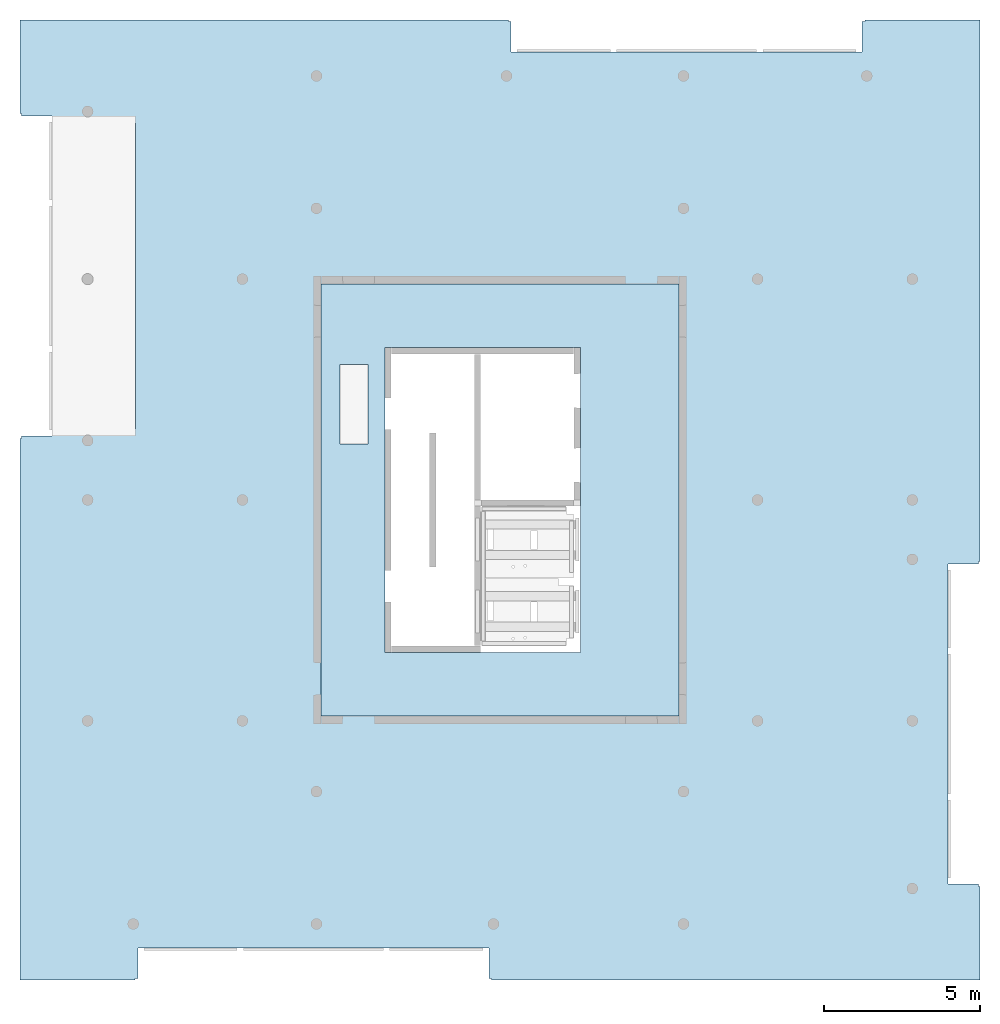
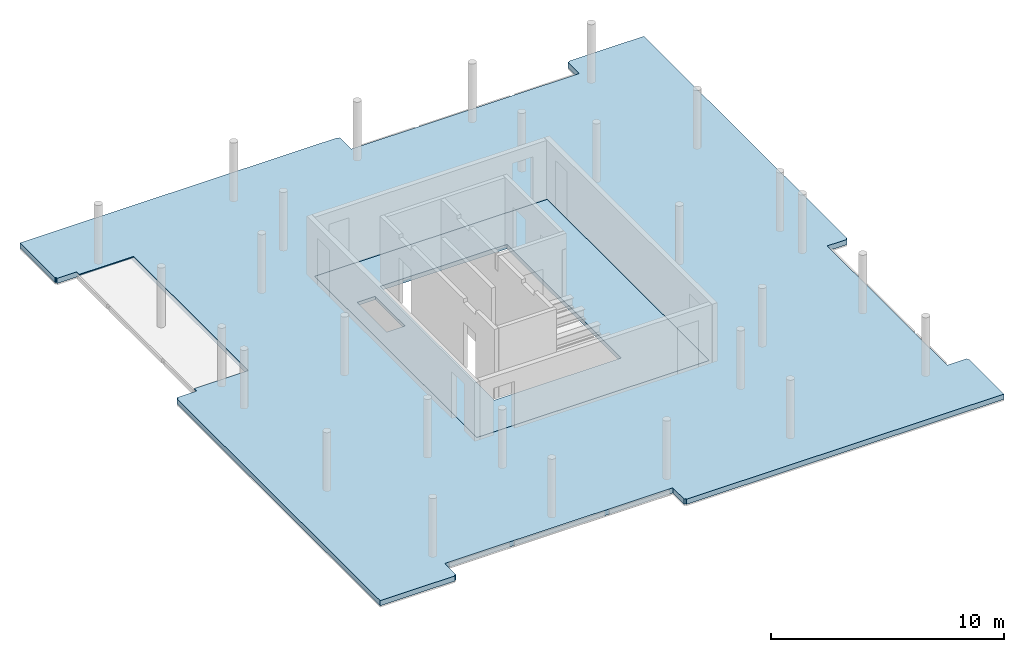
# One storey, part 4 of 4: 2 slabs.
"""IFC2X3 building model written with IfcOpenShell, lengths in millimetres."""

from ifc_helpers import new_model, entity, si_unit, converted_unit, derived_unit, direction, frame, origin, place, context, subcontext, project, spatial, faceted_brep, material, element, save


model = new_model("IFC2X3")

# Units and contexts
model_context = context("Model", 3, precision=0.01, world=origin(), true_north=direction((6.12303176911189e-17, 1.0)))
body_context = subcontext(model_context, "Body", "Model", "MODEL_VIEW")
ifc_project = project(units=[si_unit("LENGTHUNIT", "METRE", prefix="MILLI"), si_unit("AREAUNIT", "SQUARE_METRE"), si_unit("VOLUMEUNIT", "CUBIC_METRE"), converted_unit("PLANEANGLEUNIT", "DEGREE", entity("IfcRatioMeasure", 0.0174532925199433), si_unit("PLANEANGLEUNIT", "RADIAN"), dimensions=[0, 0, 0, 0, 0, 0, 0]), si_unit("MASSUNIT", "GRAM", prefix="KILO"), derived_unit("MASSDENSITYUNIT", [(si_unit("MASSUNIT", "GRAM", prefix="KILO"), 1), (si_unit("LENGTHUNIT", "METRE"), -3)]), si_unit("TIMEUNIT", "SECOND"), si_unit("FREQUENCYUNIT", "HERTZ"), si_unit("THERMODYNAMICTEMPERATUREUNIT", "DEGREE_CELSIUS"), derived_unit("THERMALTRANSMITTANCEUNIT", [(si_unit("MASSUNIT", "GRAM", prefix="KILO"), 1), (si_unit("THERMODYNAMICTEMPERATUREUNIT", "KELVIN"), -1), (si_unit("TIMEUNIT", "SECOND"), -3)]), derived_unit("VOLUMETRICFLOWRATEUNIT", [(si_unit("LENGTHUNIT", "METRE"), 3), (si_unit("TIMEUNIT", "SECOND"), -1)]), si_unit("ELECTRICCURRENTUNIT", "AMPERE"), si_unit("ELECTRICVOLTAGEUNIT", "VOLT"), si_unit("POWERUNIT", "WATT"), si_unit("FORCEUNIT", "NEWTON", prefix="KILO"), si_unit("ILLUMINANCEUNIT", "LUX"), si_unit("LUMINOUSFLUXUNIT", "LUMEN"), si_unit("LUMINOUSINTENSITYUNIT", "CANDELA"), derived_unit("USERDEFINED", [(si_unit("MASSUNIT", "GRAM", prefix="KILO"), -1), (si_unit("LENGTHUNIT", "METRE"), -2), (si_unit("TIMEUNIT", "SECOND"), 3), (si_unit("LUMINOUSFLUXUNIT", "LUMEN"), 1)]), derived_unit("LINEARVELOCITYUNIT", [(si_unit("LENGTHUNIT", "METRE"), 1), (si_unit("TIMEUNIT", "SECOND"), -1)]), si_unit("PRESSUREUNIT", "PASCAL"), derived_unit("USERDEFINED", [(si_unit("LENGTHUNIT", "METRE"), -2), (si_unit("MASSUNIT", "GRAM", prefix="KILO"), 1), (si_unit("TIMEUNIT", "SECOND"), -2)])], contexts=[model_context])

# Site, building, storey
site_placement = place(None, origin())
site = spatial("IfcSite", under=ifc_project, at=site_placement, Name="Default", CompositionType="ELEMENT")
building_placement = place(site_placement, origin())
building = spatial("IfcBuilding", under=site, at=building_placement, Name="niet gebruiken", CompositionType="ELEMENT")
storey_placement = place(building_placement, frame((0.0, 0.0, 175180.0)))
storey = spatial("IfcBuildingStorey", under=building, at=storey_placement, Name="56 zesenvijftigste verdieping", CompositionType="ELEMENT", Elevation=175180.0)

# Slabs
slab_1_placement = place(storey_placement, origin())
element("IfcSlab", 1, at=slab_1_placement, inside=storey, Name="Floor:NLRS_23.21_FL_vloer=230_gen", ObjectType="Floor:NLRS_23.21_FL_vloer=230_gen", PredefinedType="FLOOR", context=body_context, shape_type="Brep", body=[
    faceted_brep([(144330.0, 22400.0, -320.0), (138050.0, 22400.0, -320.0), (138050.0, 12600.0, -320.0), (144330.0, 12600.0, -320.0), (138040.0, 22410.0, -320.0), (144340.0, 22410.0, -320.0), (144340.0, 12590.0, -320.0), (138040.0, 12590.0, -320.0), (138050.0, 22400.0, -90.0), (144330.0, 22400.0, -90.0), (144330.0, 12600.0, -90.0), (138050.0, 12600.0, -90.0), (147500.0, 10550.0, -90.0), (147500.0, 24450.0, -90.0), (136000.0, 24450.0, -90.0), (136000.0, 10550.0, -90.0), (136600.0, 21855.0, -90.0), (137500.0, 21855.0, -90.0), (137500.0, 19305.0, -90.0), (136600.0, 19305.0, -90.0), (147500.0, 10550.0, -260.0), (147500.0, 24450.0, -260.0), (136000.0, 10550.0, -260.0), (136000.0, 24450.0, -260.0), (144340.0, 12590.0, -260.0), (144340.0, 22410.0, -260.0), (138040.0, 22410.0, -260.0), (138040.0, 12590.0, -260.0), (137500.0, 21855.0, -260.0), (136600.0, 21855.0, -260.0), (136600.0, 19305.0, -260.0), (137500.0, 19305.0, -260.0)], [[[0, 1, 2, 3], [4, 5, 6, 7]], [[8, 9, 10, 11], [12, 13, 14, 15], [16, 17, 18, 19]], [[13, 12, 20, 21]], [[12, 15, 22, 20]], [[15, 14, 23, 22]], [[14, 13, 21, 23]], [[1, 0, 9, 8]], [[2, 1, 8, 11]], [[3, 2, 11, 10]], [[0, 3, 10, 9]], [[24, 25, 26, 27], [21, 20, 22, 23], [28, 29, 30, 31]], [[26, 25, 5, 4]], [[27, 26, 4, 7]], [[24, 27, 7, 6]], [[25, 24, 6, 5]], [[17, 16, 29, 28]], [[16, 19, 30, 29]], [[19, 18, 31, 30]], [[18, 17, 28, 31]]], outer=[[False, True], [False, True, False], [True], [True], [True], [True], [True], [True], [True], [True], [False, True, False], [True], [True], [True], [True], [True], [True], [True], [True]]),
])
ifc_material = material(Name="NLRS_f2_beton ihwg")
slab_2_placement = place(storey_placement, origin())
element("IfcSlab", 2, at=slab_2_placement, inside=storey, material=ifc_material, Name="Floor:NLRS_23.21_FL_vloer d=350_gen", ObjectType="Floor:NLRS_23.21_FL_vloer d=350_gen", PredefinedType="FLOOR", context=body_context, shape_type="Brep", body=[
    faceted_brep([(147500.0, 24450.0, -440.0), (136000.0, 24450.0, -440.0), (136000.0, 10550.0, -440.0), (147500.0, 10550.0, -440.0), (135760.0, 24690.0, -440.0), (147740.0, 24690.0, -440.0), (147740.0, 10310.0, -440.0), (135760.0, 10310.0, -440.0), (130030.0, 29620.0, -90.0), (130030.0, 19780.0, -90.0), (127345.0, 19780.0, -90.0), (127345.0, 19560.0, -90.0), (126370.0, 19560.0, -90.0), (126370.0, 19474.0, -90.0), (126320.0, 19474.0, -90.0), (126320.0, 2070.0, -90.0), (130024.0, 2070.0, -90.0), (130024.0, 2120.0, -90.0), (130110.0, 2120.0, -90.0), (130110.0, 3095.0, -90.0), (141390.0, 3095.0, -90.0), (141390.0, 2120.0, -90.0), (141476.0, 2120.0, -90.0), (141476.0, 2070.0, -90.0), (157180.0, 2070.0, -90.0), (157180.0, 5074.0, -90.0), (157130.0, 5074.0, -90.0), (157130.0, 5160.0, -90.0), (156155.0, 5160.0, -90.0), (156155.0, 15440.0, -90.0), (157130.0, 15440.0, -90.0), (157130.0, 15526.0, -90.0), (157180.0, 15526.0, -90.0), (157180.0, 32930.0, -90.0), (153476.0, 32930.0, -90.0), (153476.0, 32880.0, -90.0), (153390.0, 32880.0, -90.0), (153390.0, 31905.0, -90.0), (142110.0, 31905.0, -90.0), (142110.0, 32880.0, -90.0), (142024.0, 32880.0, -90.0), (142024.0, 32930.0, -90.0), (126320.0, 32930.0, -90.0), (126320.0, 29926.0, -90.0), (126370.0, 29926.0, -90.0), (126370.0, 29840.0, -90.0), (127345.0, 29840.0, -90.0), (127345.0, 29620.0, -90.0), (136000.0, 24450.0, -90.0), (147500.0, 24450.0, -90.0), (147500.0, 10550.0, -90.0), (136000.0, 10550.0, -90.0), (130030.0, 29620.0, -140.0), (130030.0, 29840.0, -140.0), (130030.0, 29840.0, -360.0), (130030.0, 19560.0, -360.0), (130030.0, 19560.0, -140.0), (130030.0, 19780.0, -140.0), (127345.0, 29620.0, -140.0), (126320.0, 32930.0, -360.0), (126320.0, 29926.0, -360.0), (142024.0, 32930.0, -360.0), (142110.0, 31905.0, -360.0), (142110.0, 32880.0, -360.0), (153390.0, 31905.0, -360.0), (153390.0, 32880.0, -360.0), (157180.0, 32930.0, -360.0), (153476.0, 32930.0, -360.0), (157180.0, 15526.0, -360.0), (156155.0, 15440.0, -360.0), (157130.0, 15440.0, -360.0), (156155.0, 5160.0, -360.0), (157130.0, 5160.0, -360.0), (157180.0, 2070.0, -360.0), (157180.0, 5074.0, -360.0), (141476.0, 2070.0, -360.0), (141390.0, 3095.0, -360.0), (141390.0, 2120.0, -360.0), (130110.0, 3095.0, -360.0), (130110.0, 2120.0, -360.0), (126320.0, 2070.0, -360.0), (130024.0, 2070.0, -360.0), (126320.0, 19474.0, -360.0), (127345.0, 19780.0, -140.0), (147500.0, 24450.0, -320.0), (136000.0, 24450.0, -320.0), (136000.0, 10550.0, -320.0), (147500.0, 10550.0, -320.0), (127345.0, 29840.0, -140.0), (127345.0, 29840.0, -360.0), (126370.0, 29840.0, -360.0), (126370.0, 29926.0, -360.0), (142024.0, 32880.0, -360.0), (153476.0, 32880.0, -360.0), (157130.0, 15526.0, -360.0), (157130.0, 5074.0, -360.0), (141476.0, 2120.0, -360.0), (130024.0, 2120.0, -360.0), (126370.0, 19474.0, -360.0), (126370.0, 19560.0, -360.0), (127345.0, 19560.0, -360.0), (147740.0, 24690.0, -360.0), (135760.0, 24690.0, -360.0), (135760.0, 10310.0, -360.0), (147740.0, 10310.0, -360.0), (147510.0, 10540.0, -320.0), (147510.0, 24460.0, -320.0), (135990.0, 24460.0, -320.0), (135990.0, 10540.0, -320.0), (135990.0, 24460.0, -260.0), (147510.0, 24460.0, -260.0), (147510.0, 10540.0, -260.0), (135990.0, 10540.0, -260.0), (147500.0, 24450.0, -260.0), (136000.0, 24450.0, -260.0), (136000.0, 10550.0, -260.0), (147500.0, 10550.0, -260.0), (127345.0, 19560.0, -140.0)], [[[0, 1, 2, 3], [4, 5, 6, 7]], [[8, 9, 10, 11, 12, 13, 14, 15, 16, 17, 18, 19, 20, 21, 22, 23, 24, 25, 26, 27, 28, 29, 30, 31, 32, 33, 34, 35, 36, 37, 38, 39, 40, 41, 42, 43, 44, 45, 46, 47], [48, 49, 50, 51]], [[9, 8, 52, 53, 54, 55, 56, 57]], [[8, 47, 58, 52]], [[43, 42, 59, 60]], [[42, 41, 61, 59]], [[39, 38, 62, 63]], [[38, 37, 64, 62]], [[37, 36, 65, 64]], [[34, 33, 66, 67]], [[33, 32, 68, 66]], [[30, 29, 69, 70]], [[29, 28, 71, 69]], [[28, 27, 72, 71]], [[25, 24, 73, 74]], [[24, 23, 75, 73]], [[21, 20, 76, 77]], [[20, 19, 78, 76]], [[19, 18, 79, 78]], [[16, 15, 80, 81]], [[15, 14, 82, 80]], [[10, 9, 57, 83]], [[1, 0, 84, 85]], [[2, 1, 85, 86]], [[3, 2, 86, 87]], [[0, 3, 87, 84]], [[88, 53, 52, 58]], [[55, 54, 89, 90, 91, 60, 59, 61, 92, 63, 62, 64, 65, 93, 67, 66, 68, 94, 70, 69, 71, 72, 95, 74, 73, 75, 96, 77, 76, 78, 79, 97, 81, 80, 82, 98, 99, 100], [101, 102, 103, 104]], [[102, 101, 5, 4]], [[103, 102, 4, 7]], [[104, 103, 7, 6]], [[101, 104, 6, 5]], [[85, 84, 87, 86], [105, 106, 107, 108]], [[109, 110, 111, 112], [113, 114, 115, 116]], [[106, 105, 111, 110]], [[105, 108, 112, 111]], [[108, 107, 109, 112]], [[107, 106, 110, 109]], [[45, 44, 91, 90]], [[44, 43, 60, 91]], [[41, 40, 92, 61]], [[40, 39, 63, 92]], [[36, 35, 93, 65]], [[35, 34, 67, 93]], [[32, 31, 94, 68]], [[31, 30, 70, 94]], [[27, 26, 95, 72]], [[26, 25, 74, 95]], [[23, 22, 96, 75]], [[22, 21, 77, 96]], [[18, 17, 97, 79]], [[17, 16, 81, 97]], [[14, 13, 98, 82]], [[13, 12, 99, 98]], [[47, 46, 88, 58]], [[53, 88, 46, 45, 90, 89, 54]], [[117, 56, 55, 100, 99, 12, 11]], [[11, 10, 83, 117]], [[56, 117, 83, 57]], [[50, 49, 113, 116]], [[51, 50, 116, 115]], [[48, 51, 115, 114]], [[49, 48, 114, 113]]], outer=[[False, True], [True, False], [True], [True], [True], [True], [True], [True], [True], [True], [True], [True], [True], [True], [True], [True], [True], [True], [True], [True], [True], [True], [True], [True], [True], [True], [True], [True, False], [True], [True], [True], [True], [False, True], [True, False], [True], [True], [True], [True], [True], [True], [True], [True], [True], [True], [True], [True], [True], [True], [True], [True], [True], [True], [True], [True], [True], [True], [True], [True], [True], [True], [True], [True], [True]]),
])

save(model, "model.ifc")
